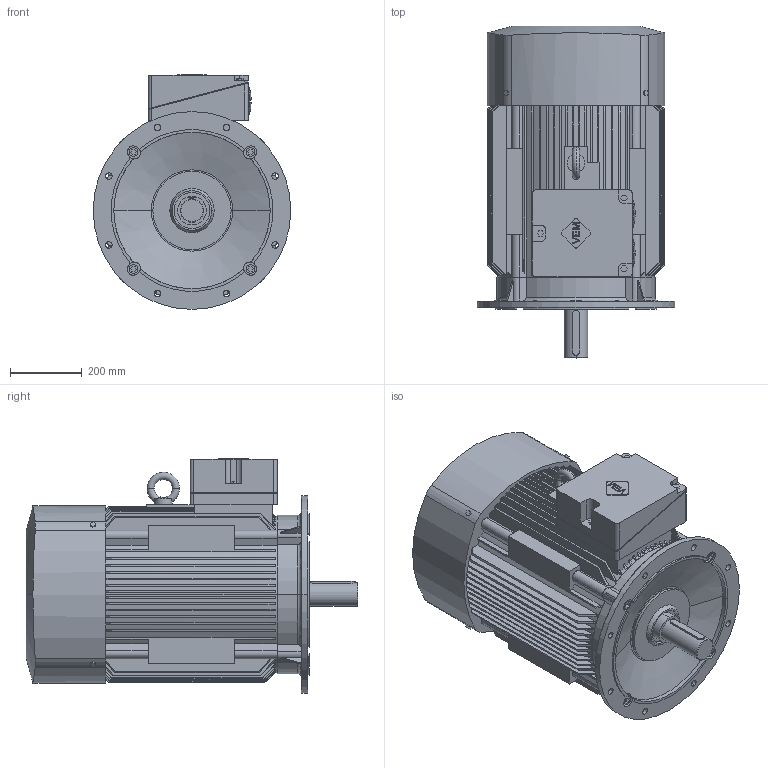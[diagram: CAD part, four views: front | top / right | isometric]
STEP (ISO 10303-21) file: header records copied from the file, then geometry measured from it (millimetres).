
FILE_DESCRIPTION(('no description'),'unknown implementation level');
FILE_NAME('t85b26bc048d546ccbfc51af164da6c5f.stp',' ',('VEM motors GmbH'),('CADClick - KiM GmbH - www.kimweb.de'),'unknown preprocess','ACIS','unknown authorization');
FILE_SCHEMA(('automotive_design'));
Length unit declared in the file: millimetre
Products named in the file (5): 1; 2; 3; 4; 5
Bounding box: 550 x 923 x 653 mm (x, y, z)
Volume: 144885095.1 mm3; surface area: 3607847.2 mm2
Topology: 5 solids, 5 shells, 746 faces, 2132 edges, 1408 vertices
Faces by surface type: plane 411, cylinder 189, cone 126, torus 16, bspline 4
Entity records: 52214 total; most frequent: CARTESIAN_POINT 9407, STYLED_ITEM 4291, PRESENTATION_STYLE_ASSIGNMENT 4291, COLOUR_RGB 4291, ORIENTED_EDGE 4264, DIRECTION 3760, EDGE_CURVE 2132, CURVE_STYLE 2132
